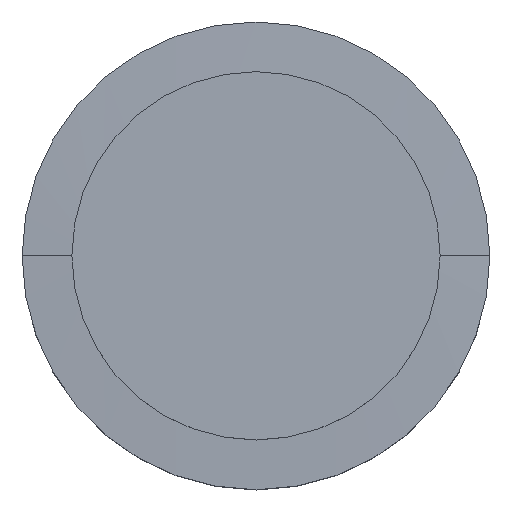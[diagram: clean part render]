
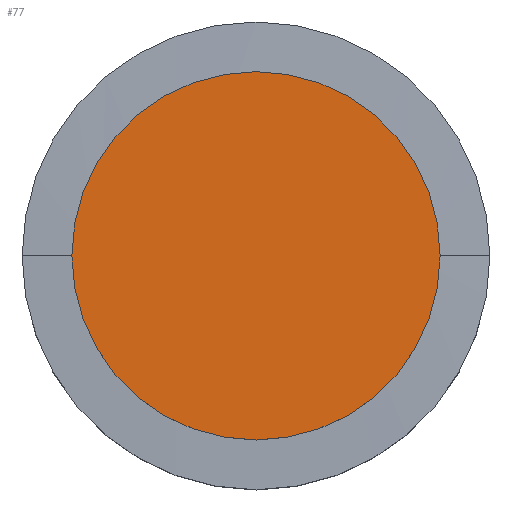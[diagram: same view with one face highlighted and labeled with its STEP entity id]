
A CAD part, top view. The second image highlights one B-rep face of the part: STEP entity #77.
In plain terms, the highlighted planar face has unit normal (0, 0, 1).
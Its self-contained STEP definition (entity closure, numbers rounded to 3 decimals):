
#77=ADVANCED_FACE('',(#109),#110,.T.);
#109=FACE_OUTER_BOUND('',#141,.T.);
#110=PLANE('',#142);
#141=EDGE_LOOP('',(#238,#239));
#142=AXIS2_PLACEMENT_3D('',#240,#241,#242);
#238=ORIENTED_EDGE('',*,*,#266,.T.);
#239=ORIENTED_EDGE('',*,*,#267,.T.);
#240=CARTESIAN_POINT('',(0.0,0.0,11.0));
#241=DIRECTION('',(0.0,0.0,1.0));
#242=DIRECTION('',(1.0,0.0,0.0));
#266=EDGE_CURVE('',#302,#306,#308,.T.);
#267=EDGE_CURVE('',#306,#302,#309,.T.);
#302=VERTEX_POINT('',#348);
#306=VERTEX_POINT('',#353);
#308=CIRCLE('',#356,10.0);
#309=CIRCLE('',#357,10.0);
#348=CARTESIAN_POINT('',(10.0,0.0,11.0));
#353=CARTESIAN_POINT('',(-10.0,0.,11.0));
#356=AXIS2_PLACEMENT_3D('',#416,#417,#418);
#357=AXIS2_PLACEMENT_3D('',#419,#420,#421);
#416=CARTESIAN_POINT('',(0.0,0.0,11.0));
#417=DIRECTION('',(0.0,0.0,1.0));
#418=DIRECTION('',(1.0,0.0,0.0));
#419=CARTESIAN_POINT('',(0.0,0.0,11.0));
#420=DIRECTION('',(0.0,0.0,1.0));
#421=DIRECTION('',(1.0,0.0,0.0));
